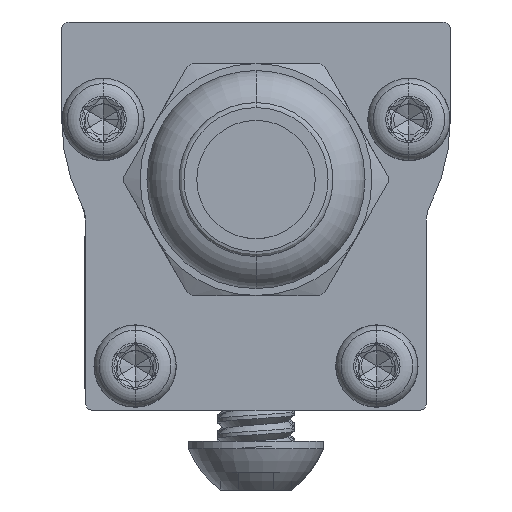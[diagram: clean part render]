
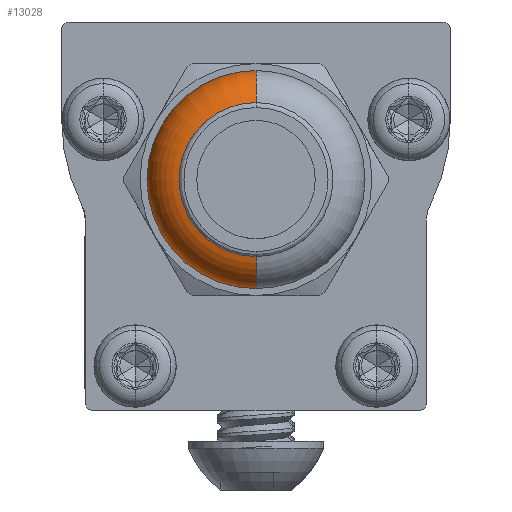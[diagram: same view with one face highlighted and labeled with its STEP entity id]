
A CAD part, left-side view. The second image highlights one B-rep face of the part: STEP entity #13028.
In plain terms, the highlighted toroidal (fillet/blend) face has major radius 3.518 mm and minor radius 2.095 mm.
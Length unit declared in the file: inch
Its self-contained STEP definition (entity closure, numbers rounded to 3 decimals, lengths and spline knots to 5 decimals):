
#920 = DIRECTION ( 'NONE',  ( 0., 0., -1. ) ) ;
#1163 = CARTESIAN_POINT ( 'NONE',  ( -0.31437, 0., -0.13852 ) ) ;
#1261 = DIRECTION ( 'NONE',  ( 0., 1., 0. ) ) ;
#1603 = FACE_OUTER_BOUND ( 'NONE', #15470, .T. ) ;
#1643 = AXIS2_PLACEMENT_3D ( 'NONE', #2429, #26309, #5027 ) ;
#1887 = AXIS2_PLACEMENT_3D ( 'NONE', #5960, #25353, #25244 ) ;
#1975 = DIRECTION ( 'NONE',  ( 0., 0., 1. ) ) ;
#2429 = CARTESIAN_POINT ( 'NONE',  ( -0.395, 0., 0. ) ) ;
#2695 = TOROIDAL_SURFACE ( 'NONE', #1887, 0.13852, 0.0825 ) ;
#3259 = VERTEX_POINT ( 'NONE', #21122 ) ;
#3331 = EDGE_CURVE ( 'NONE', #3544, #3259, #26883, .T. ) ;
#3544 = VERTEX_POINT ( 'NONE', #8178 ) ;
#4554 = AXIS2_PLACEMENT_3D ( 'NONE', #1163, #1261, #17857 ) ;
#5027 = DIRECTION ( 'NONE',  ( 0., 0., 1. ) ) ;
#5960 = CARTESIAN_POINT ( 'NONE',  ( -0.31437, 0., 0. ) ) ;
#7719 = EDGE_CURVE ( 'NONE', #21120, #25868, #27210, .T. ) ;
#8178 = CARTESIAN_POINT ( 'NONE',  ( -0.395, 0., 0.156 ) ) ;
#8879 = CARTESIAN_POINT ( 'NONE',  ( -0.31437, 0., -0.22102 ) ) ;
#9658 = AXIS2_PLACEMENT_3D ( 'NONE', #15024, #26985, #920 ) ;
#10850 = ORIENTED_EDGE ( 'NONE', *, *, #28261, .T. ) ;
#12125 = EDGE_CURVE ( 'NONE', #25868, #3544, #12488, .T. ) ;
#12356 = CIRCLE ( 'NONE', #4554, 0.0825 ) ;
#12488 = CIRCLE ( 'NONE', #9658, 0.0825 ) ;
#12565 = ORIENTED_EDGE ( 'NONE', *, *, #7719, .F. ) ;
#13028 = ADVANCED_FACE ( 'NONE', ( #1603 ), #2695, .T. ) ;
#15024 = CARTESIAN_POINT ( 'NONE',  ( -0.31437, 0., 0.13852 ) ) ;
#15470 = EDGE_LOOP ( 'NONE', ( #12565, #10850, #27120, #18227 ) ) ;
#16076 = DIRECTION ( 'NONE',  ( 1., 0., 0. ) ) ;
#17335 = AXIS2_PLACEMENT_3D ( 'NONE', #30323, #16076, #1975 ) ;
#17857 = DIRECTION ( 'NONE',  ( 0., 0., 1. ) ) ;
#18227 = ORIENTED_EDGE ( 'NONE', *, *, #12125, .F. ) ;
#20195 = CARTESIAN_POINT ( 'NONE',  ( -0.31437, 0., 0.22102 ) ) ;
#21120 = VERTEX_POINT ( 'NONE', #8879 ) ;
#21122 = CARTESIAN_POINT ( 'NONE',  ( -0.395, 0., -0.156 ) ) ;
#25244 = DIRECTION ( 'NONE',  ( 0., 0., 1. ) ) ;
#25353 = DIRECTION ( 'NONE',  ( -1., 0., 0. ) ) ;
#25868 = VERTEX_POINT ( 'NONE', #20195 ) ;
#26309 = DIRECTION ( 'NONE',  ( -1., 0., 0. ) ) ;
#26883 = CIRCLE ( 'NONE', #1643, 0.156 ) ;
#26985 = DIRECTION ( 'NONE',  ( 0., -1., 0. ) ) ;
#27120 = ORIENTED_EDGE ( 'NONE', *, *, #3331, .F. ) ;
#27210 = CIRCLE ( 'NONE', #17335, 0.22102 ) ;
#28261 = EDGE_CURVE ( 'NONE', #21120, #3259, #12356, .T. ) ;
#30323 = CARTESIAN_POINT ( 'NONE',  ( -0.31437, 0., 0. ) ) ;
